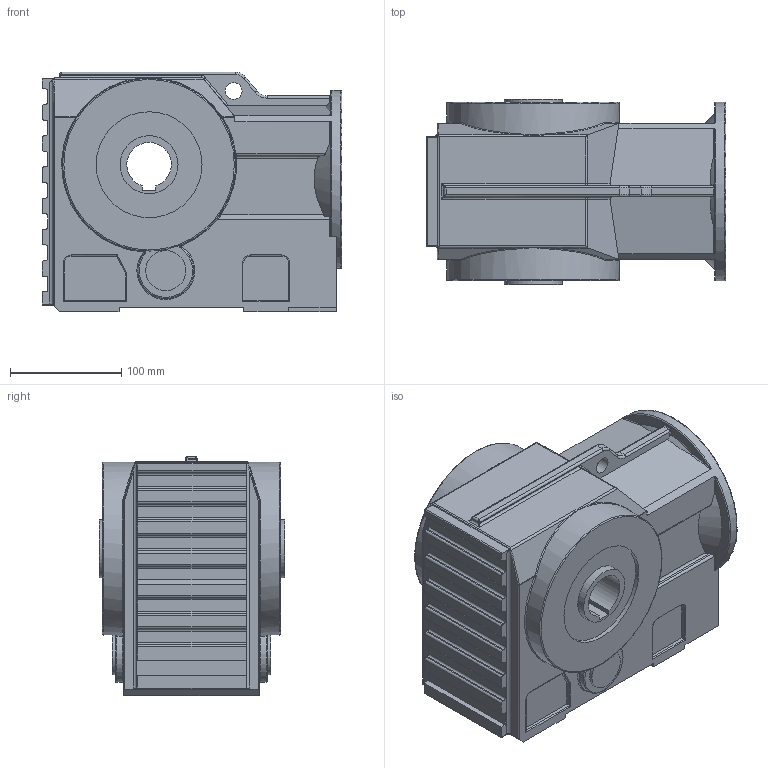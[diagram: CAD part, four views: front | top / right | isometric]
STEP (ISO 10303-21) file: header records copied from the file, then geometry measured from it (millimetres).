
FILE_DESCRIPTION((''),'2;1');
FILE_NAME('F:\PAWEŁ\ZLECENIA\2011 DualSystem\Przekładnie DK\001 Modele\DKAB50_\DK_50_STEP\DK_A_50.stp','2012-06-26T18:39:37',('admin'),(''),'Autodesk Inventor 2009','Autodesk Inventor 2009','');
FILE_SCHEMA(('AUTOMOTIVE_DESIGN { 1 0 10303 214 1 1 1 1 }'));
Length unit declared in the file: millimetre
Products named in the file (1): DK_A_50
Bounding box: 269 x 166 x 215 mm (x, y, z)
Volume: 6676145.6 mm3; surface area: 283720.3 mm2
Topology: 1 solids, 1 shells, 399 faces, 966 edges, 576 vertices
Faces by surface type: cylinder 155, plane 108, bspline 85, torus 45, cone 4, sphere 2
Full cylindrical faces by diameter (mm): 10.106 x4, 15 x1, 36 x1, 52 x1, 95 x1, 110 x1, 155 x2, 160 x1
Entity records: 15320 total; most frequent: CARTESIAN_POINT 6263, DIRECTION 1886, ORIENTED_EDGE 1870, EDGE_CURVE 935, AXIS2_PLACEMENT_3D 729, VERTEX_POINT 573, EDGE_LOOP 438, VECTOR 428
